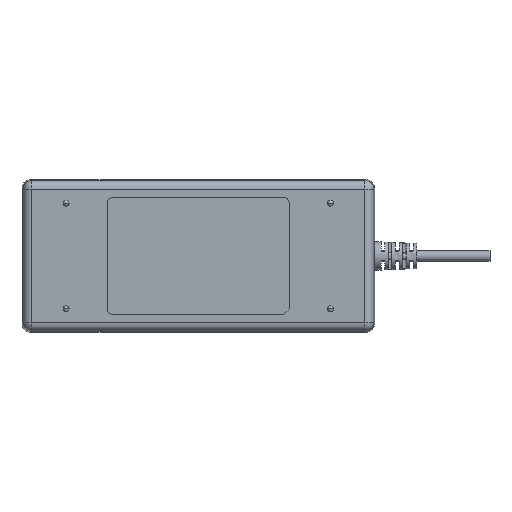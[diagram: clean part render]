
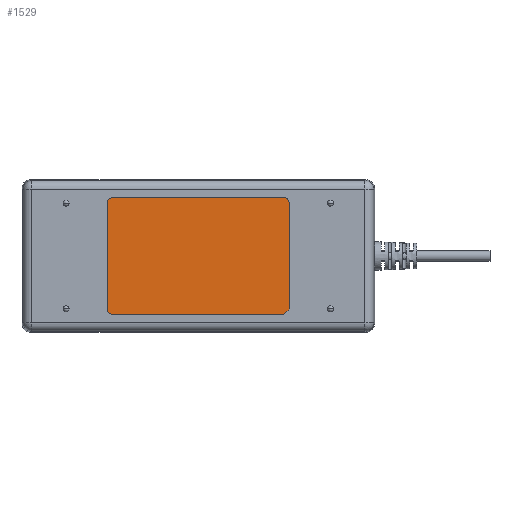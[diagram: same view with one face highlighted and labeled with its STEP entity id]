
A CAD part, front view. The second image highlights one B-rep face of the part: STEP entity #1529.
In plain terms, the highlighted planar face has unit normal (0, -1, 0).
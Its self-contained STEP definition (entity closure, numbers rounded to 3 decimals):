
#193 = EDGE_CURVE ( 'NONE', #36286, #13842, #30668, .T. ) ;
#305 = CARTESIAN_POINT ( 'NONE',  ( -29., -15.2, -19.997 ) ) ;
#387 = EDGE_LOOP ( 'NONE', ( #22633, #8664, #31925, #22930, #42339, #4788, #15881, #8968 ) ) ;
#526 = DIRECTION ( 'NONE',  ( 0., 0., 1. ) ) ;
#1529 = ADVANCED_FACE ( 'NONE', ( #16019 ), #39468, .F. ) ;
#1756 = CARTESIAN_POINT ( 'NONE',  ( 28.998, -15.2, -19.998 ) ) ;
#3541 = DIRECTION ( 'NONE',  ( 0., -1., 0. ) ) ;
#4788 = ORIENTED_EDGE ( 'NONE', *, *, #28988, .T. ) ;
#5352 = LINE ( 'NONE', #12034, #25178 ) ;
#5839 = LINE ( 'NONE', #1756, #37474 ) ;
#5972 = LINE ( 'NONE', #19770, #9936 ) ;
#6191 = DIRECTION ( 'NONE',  ( 0., 0., -1. ) ) ;
#6798 = CARTESIAN_POINT ( 'NONE',  ( 28.999, -15.2, -19.997 ) ) ;
#8218 = CIRCLE ( 'NONE', #23332, 1.997 ) ;
#8664 = ORIENTED_EDGE ( 'NONE', *, *, #22307, .T. ) ;
#8968 = ORIENTED_EDGE ( 'NONE', *, *, #22736, .T. ) ;
#9407 = AXIS2_PLACEMENT_3D ( 'NONE', #9983, #12764, #22901 ) ;
#9845 = CARTESIAN_POINT ( 'NONE',  ( -30.997, -15.2, 18. ) ) ;
#9936 = VECTOR ( 'NONE', #6191, 1000. ) ;
#9983 = CARTESIAN_POINT ( 'NONE',  ( -29., -15.2, 18. ) ) ;
#10018 = VERTEX_POINT ( 'NONE', #31707 ) ;
#12034 = CARTESIAN_POINT ( 'NONE',  ( -29., -15.2, -19.997 ) ) ;
#12401 = CARTESIAN_POINT ( 'NONE',  ( 30.997, -15.2, -17.999 ) ) ;
#12764 = DIRECTION ( 'NONE',  ( 0., 1., 0. ) ) ;
#13842 = VERTEX_POINT ( 'NONE', #17585 ) ;
#15430 = DIRECTION ( 'NONE',  ( 0., 0., 1. ) ) ;
#15642 = DIRECTION ( 'NONE',  ( 0., 0., 1. ) ) ;
#15881 = ORIENTED_EDGE ( 'NONE', *, *, #193, .T. ) ;
#16019 = FACE_OUTER_BOUND ( 'NONE', #387, .T. ) ;
#16377 = CARTESIAN_POINT ( 'NONE',  ( -29., -15.2, 19.997 ) ) ;
#16737 = DIRECTION ( 'NONE',  ( 0., -1., 0. ) ) ;
#17585 = CARTESIAN_POINT ( 'NONE',  ( 29., -15.2, 19.997 ) ) ;
#18072 = CARTESIAN_POINT ( 'NONE',  ( 30.997, -15.2, 18. ) ) ;
#18250 = VERTEX_POINT ( 'NONE', #305 ) ;
#19770 = CARTESIAN_POINT ( 'NONE',  ( -30.997, -15.2, 18. ) ) ;
#19983 = VERTEX_POINT ( 'NONE', #12401 ) ;
#20132 = VERTEX_POINT ( 'NONE', #6798 ) ;
#21278 = CARTESIAN_POINT ( 'NONE',  ( -29., -15.2, -18. ) ) ;
#22303 = CARTESIAN_POINT ( 'NONE',  ( -29., -15.2, 19.997 ) ) ;
#22307 = EDGE_CURVE ( 'NONE', #26195, #10018, #5972, .T. ) ;
#22633 = ORIENTED_EDGE ( 'NONE', *, *, #36518, .T. ) ;
#22736 = EDGE_CURVE ( 'NONE', #13842, #38533, #38862, .T. ) ;
#22803 = EDGE_CURVE ( 'NONE', #20132, #19983, #5839, .T. ) ;
#22901 = DIRECTION ( 'NONE',  ( 0., 0., 1. ) ) ;
#22930 = ORIENTED_EDGE ( 'NONE', *, *, #42341, .T. ) ;
#22986 = CARTESIAN_POINT ( 'NONE',  ( -29., -15.2, 18. ) ) ;
#23332 = AXIS2_PLACEMENT_3D ( 'NONE', #22986, #16737, #23417 ) ;
#23417 = DIRECTION ( 'NONE',  ( 0., 0., 1. ) ) ;
#25178 = VECTOR ( 'NONE', #41779, 1000. ) ;
#25318 = CARTESIAN_POINT ( 'NONE',  ( 30.997, -15.2, 18. ) ) ;
#25324 = DIRECTION ( 'NONE',  ( 0., -1., 0. ) ) ;
#26195 = VERTEX_POINT ( 'NONE', #9845 ) ;
#28956 = LINE ( 'NONE', #25318, #31669 ) ;
#28988 = EDGE_CURVE ( 'NONE', #19983, #36286, #28956, .T. ) ;
#30668 = CIRCLE ( 'NONE', #36844, 1.997 ) ;
#31669 = VECTOR ( 'NONE', #15642, 1000. ) ;
#31707 = CARTESIAN_POINT ( 'NONE',  ( -30.997, -15.2, -18. ) ) ;
#31893 = DIRECTION ( 'NONE',  ( 0.707, 0., 0.707 ) ) ;
#31925 = ORIENTED_EDGE ( 'NONE', *, *, #41208, .T. ) ;
#33041 = CARTESIAN_POINT ( 'NONE',  ( 29., -15.2, 18. ) ) ;
#36050 = CIRCLE ( 'NONE', #38813, 1.997 ) ;
#36286 = VERTEX_POINT ( 'NONE', #18072 ) ;
#36518 = EDGE_CURVE ( 'NONE', #38533, #26195, #8218, .T. ) ;
#36844 = AXIS2_PLACEMENT_3D ( 'NONE', #33041, #3541, #526 ) ;
#37474 = VECTOR ( 'NONE', #31893, 1000. ) ;
#38533 = VERTEX_POINT ( 'NONE', #16377 ) ;
#38649 = DIRECTION ( 'NONE',  ( -1., 0., 0. ) ) ;
#38813 = AXIS2_PLACEMENT_3D ( 'NONE', #21278, #25324, #15430 ) ;
#38842 = VECTOR ( 'NONE', #38649, 1000. ) ;
#38862 = LINE ( 'NONE', #22303, #38842 ) ;
#39468 = PLANE ( 'NONE',  #9407 ) ;
#41208 = EDGE_CURVE ( 'NONE', #10018, #18250, #36050, .T. ) ;
#41779 = DIRECTION ( 'NONE',  ( 1., 0., 0. ) ) ;
#42339 = ORIENTED_EDGE ( 'NONE', *, *, #22803, .T. ) ;
#42341 = EDGE_CURVE ( 'NONE', #18250, #20132, #5352, .T. ) ;
